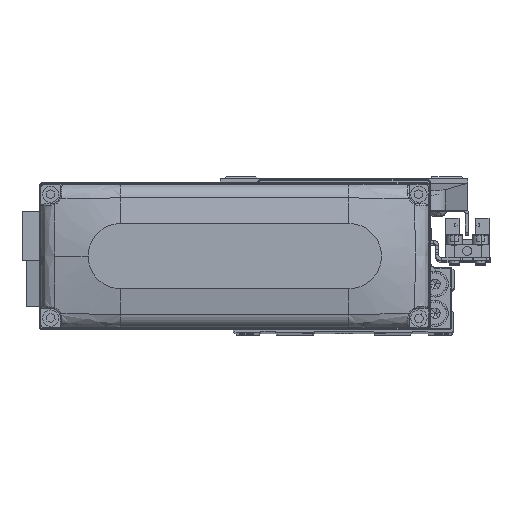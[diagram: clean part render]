
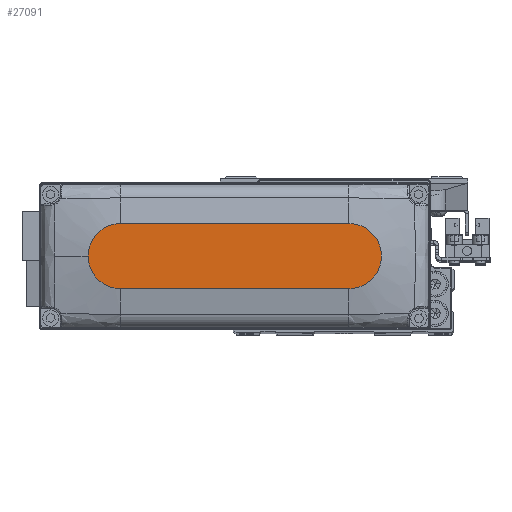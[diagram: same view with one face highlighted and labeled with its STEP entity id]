
A CAD part, top view. The second image highlights one B-rep face of the part: STEP entity #27091.
In plain terms, the highlighted planar face has unit normal (0, 0, 1).
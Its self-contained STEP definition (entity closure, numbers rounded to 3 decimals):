
#700 = CARTESIAN_POINT ( 'NONE',  ( -35., 0., 28. ) ) ;
#1744 = EDGE_CURVE ( 'NONE', #5787, #36388, #13141, .T. ) ;
#1899 = EDGE_CURVE ( 'NONE', #11547, #14712, #28190, .T. ) ;
#3959 = ORIENTED_EDGE ( 'NONE', *, *, #32183, .T. ) ;
#5787 = VERTEX_POINT ( 'NONE', #21954 ) ;
#7216 = CARTESIAN_POINT ( 'NONE',  ( 35., 0., 28. ) ) ;
#8932 = DIRECTION ( 'NONE',  ( 0., 0., 1. ) ) ;
#9267 = CARTESIAN_POINT ( 'NONE',  ( 45., 0., 28. ) ) ;
#10679 = CIRCLE ( 'NONE', #35439, 10. ) ;
#11340 = DIRECTION ( 'NONE',  ( -1., 0., 0. ) ) ;
#11547 = VERTEX_POINT ( 'NONE', #31904 ) ;
#11999 = ORIENTED_EDGE ( 'NONE', *, *, #1744, .T. ) ;
#12246 = FACE_OUTER_BOUND ( 'NONE', #13404, .T. ) ;
#12953 = DIRECTION ( 'NONE',  ( 1., 0., 0. ) ) ;
#13141 = LINE ( 'NONE', #26672, #16043 ) ;
#13204 = VECTOR ( 'NONE', #11340, 1000. ) ;
#13404 = EDGE_LOOP ( 'NONE', ( #15115, #3959, #11999, #14932, #26823 ) ) ;
#14187 = DIRECTION ( 'NONE',  ( 0., 0., 1. ) ) ;
#14311 = CIRCLE ( 'NONE', #39095, 10. ) ;
#14712 = VERTEX_POINT ( 'NONE', #15467 ) ;
#14932 = ORIENTED_EDGE ( 'NONE', *, *, #23185, .T. ) ;
#15115 = ORIENTED_EDGE ( 'NONE', *, *, #1899, .T. ) ;
#15193 = CARTESIAN_POINT ( 'NONE',  ( 35., -10., 28. ) ) ;
#15467 = CARTESIAN_POINT ( 'NONE',  ( -35., 10., 28. ) ) ;
#15579 = AXIS2_PLACEMENT_3D ( 'NONE', #7216, #20721, #34227 ) ;
#16043 = VECTOR ( 'NONE', #40178, 1000. ) ;
#20721 = DIRECTION ( 'NONE',  ( 0., 0., 1. ) ) ;
#21954 = CARTESIAN_POINT ( 'NONE',  ( -35., -10., 28. ) ) ;
#22432 = DIRECTION ( 'NONE',  ( 1., 0., 0. ) ) ;
#23185 = EDGE_CURVE ( 'NONE', #36388, #28136, #29032, .T. ) ;
#25439 = EDGE_CURVE ( 'NONE', #28136, #11547, #14311, .T. ) ;
#25770 = PLANE ( 'NONE',  #27183 ) ;
#26672 = CARTESIAN_POINT ( 'NONE',  ( -35., -10., 28. ) ) ;
#26823 = ORIENTED_EDGE ( 'NONE', *, *, #25439, .T. ) ;
#27091 = ADVANCED_FACE ( 'NONE', ( #12246 ), #25770, .T. ) ;
#27183 = AXIS2_PLACEMENT_3D ( 'NONE', #39283, #8932, #22432 ) ;
#27719 = DIRECTION ( 'NONE',  ( 1., 0., 0. ) ) ;
#28136 = VERTEX_POINT ( 'NONE', #9267 ) ;
#28190 = LINE ( 'NONE', #41722, #13204 ) ;
#29032 = CIRCLE ( 'NONE', #15579, 10. ) ;
#29807 = CARTESIAN_POINT ( 'NONE',  ( 35., 0., 28. ) ) ;
#31904 = CARTESIAN_POINT ( 'NONE',  ( 35., 10., 28. ) ) ;
#32183 = EDGE_CURVE ( 'NONE', #14712, #5787, #10679, .T. ) ;
#34227 = DIRECTION ( 'NONE',  ( 1., 0., 0. ) ) ;
#35439 = AXIS2_PLACEMENT_3D ( 'NONE', #700, #14187, #27719 ) ;
#36388 = VERTEX_POINT ( 'NONE', #15193 ) ;
#39095 = AXIS2_PLACEMENT_3D ( 'NONE', #29807, #43340, #12953 ) ;
#39283 = CARTESIAN_POINT ( 'NONE',  ( 0., 0., 28. ) ) ;
#40178 = DIRECTION ( 'NONE',  ( 1., 0., 0. ) ) ;
#41722 = CARTESIAN_POINT ( 'NONE',  ( -35., 10., 28. ) ) ;
#43340 = DIRECTION ( 'NONE',  ( 0., 0., 1. ) ) ;
